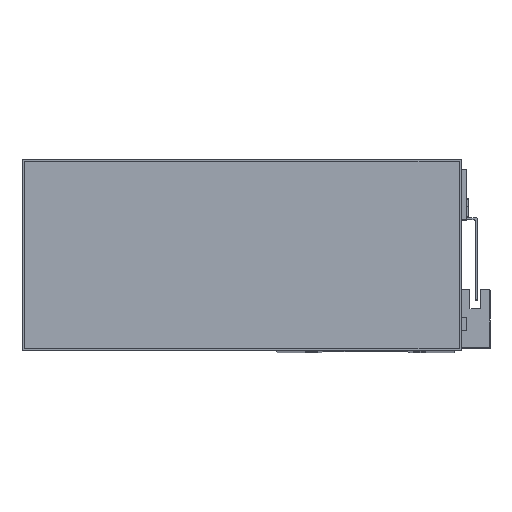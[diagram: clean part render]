
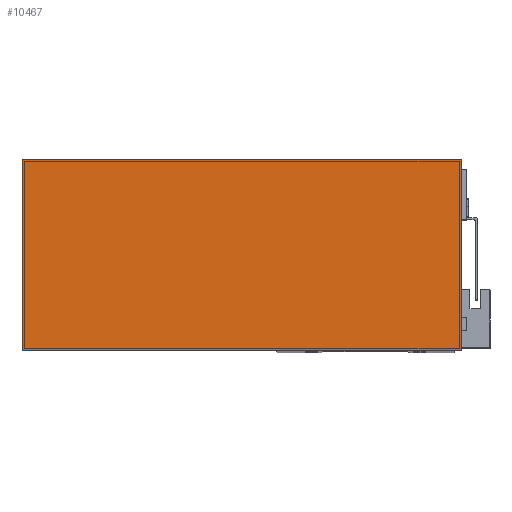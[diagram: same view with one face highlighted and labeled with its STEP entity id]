
A CAD part, top view. The second image highlights one B-rep face of the part: STEP entity #10467.
In plain terms, the highlighted planar face has unit normal (0, 0, 1).
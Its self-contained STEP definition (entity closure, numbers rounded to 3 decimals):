
#149 = CARTESIAN_POINT ( 'NONE',  ( 87., 201., 46. ) ) ;
#232 = LINE ( 'NONE', #4148, #320 ) ;
#320 = VECTOR ( 'NONE', #4075, 1000. ) ;
#963 = ORIENTED_EDGE ( 'NONE', *, *, #13065, .T. ) ;
#1229 = CARTESIAN_POINT ( 'NONE',  ( 87., -1., 46. ) ) ;
#1270 = DIRECTION ( 'NONE',  ( 1., 0., 0. ) ) ;
#1580 = VECTOR ( 'NONE', #5366, 1000. ) ;
#1778 = ORIENTED_EDGE ( 'NONE', *, *, #13464, .T. ) ;
#1785 = DIRECTION ( 'NONE',  ( 0., 1., 0. ) ) ;
#1939 = VERTEX_POINT ( 'NONE', #1229 ) ;
#4075 = DIRECTION ( 'NONE',  ( 0., -1., 0. ) ) ;
#4148 = CARTESIAN_POINT ( 'NONE',  ( -1., 201., 46. ) ) ;
#5366 = DIRECTION ( 'NONE',  ( 1., 0., 0. ) ) ;
#5570 = VECTOR ( 'NONE', #7901, 1000. ) ;
#5898 = LINE ( 'NONE', #6282, #5570 ) ;
#6282 = CARTESIAN_POINT ( 'NONE',  ( -1., 201., 46. ) ) ;
#7054 = VERTEX_POINT ( 'NONE', #20249 ) ;
#7397 = LINE ( 'NONE', #11756, #1580 ) ;
#7901 = DIRECTION ( 'NONE',  ( -1., 0., 0. ) ) ;
#8802 = VECTOR ( 'NONE', #1785, 1000. ) ;
#9488 = CARTESIAN_POINT ( 'NONE',  ( -1., 201., 46. ) ) ;
#9717 = ORIENTED_EDGE ( 'NONE', *, *, #19059, .T. ) ;
#10318 = EDGE_CURVE ( 'NONE', #12155, #7054, #232, .T. ) ;
#10467 = ADVANCED_FACE ( 'NONE', ( #20359 ), #15644, .T. ) ;
#10970 = DIRECTION ( 'NONE',  ( 0., 0., 1. ) ) ;
#11756 = CARTESIAN_POINT ( 'NONE',  ( -1., -1., 46. ) ) ;
#11770 = CARTESIAN_POINT ( 'NONE',  ( 87., 201., 46. ) ) ;
#12155 = VERTEX_POINT ( 'NONE', #9488 ) ;
#12833 = EDGE_LOOP ( 'NONE', ( #15741, #9717, #963, #1778 ) ) ;
#13065 = EDGE_CURVE ( 'NONE', #1939, #20288, #14548, .T. ) ;
#13464 = EDGE_CURVE ( 'NONE', #20288, #12155, #5898, .T. ) ;
#14548 = LINE ( 'NONE', #149, #8802 ) ;
#15644 = PLANE ( 'NONE',  #15850 ) ;
#15741 = ORIENTED_EDGE ( 'NONE', *, *, #10318, .T. ) ;
#15850 = AXIS2_PLACEMENT_3D ( 'NONE', #20581, #10970, #1270 ) ;
#19059 = EDGE_CURVE ( 'NONE', #7054, #1939, #7397, .T. ) ;
#20249 = CARTESIAN_POINT ( 'NONE',  ( -1., -1., 46. ) ) ;
#20288 = VERTEX_POINT ( 'NONE', #11770 ) ;
#20359 = FACE_OUTER_BOUND ( 'NONE', #12833, .T. ) ;
#20581 = CARTESIAN_POINT ( 'NONE',  ( 0., 0., 46. ) ) ;
